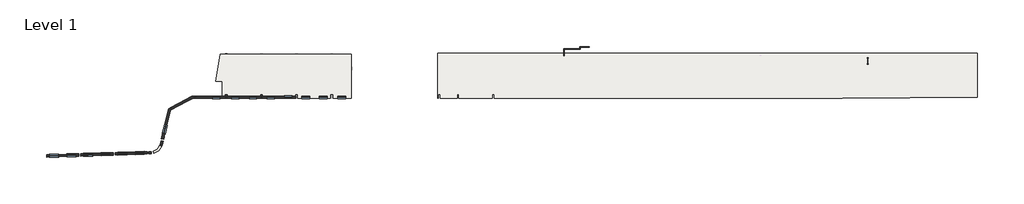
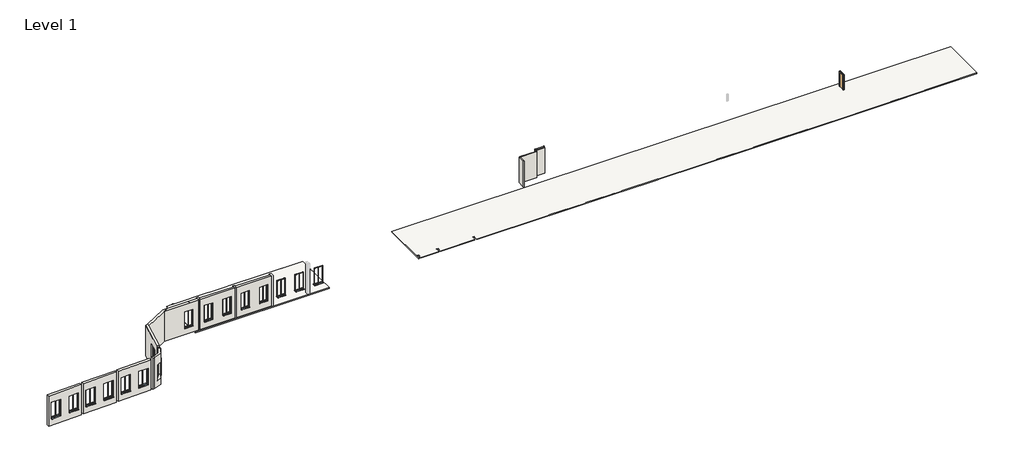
# One storey, part 1 of 3: 15 walls, 15 windows, 2 columns, 2 slabs, 1 beam, 1 door.
"""IFC4 building model written with IfcOpenShell, lengths in millimetres."""

from ifc_helpers import new_model, si_unit, frame, origin, place, context, project, spatial, polyline, circle_curve, outline, extrude, faceted_brep, transform, mapped, element, save
from ifc_brep_helpers import plane_surface, cylinder_surface, revolved_surface, advanced_brep
from components import door_1f0cfce1, finestra_doppia_110_x_230_cm_898ac0b4, finestra_doppia_128_x_230_cm_ef977aeb

model = new_model("IFC4")

# Units and contexts
model_context = context("Model", 3, world=origin())
ifc_project = project(units=[si_unit("LENGTHUNIT", "METRE", prefix="MILLI")], contexts=[model_context])

# Site, building, storey
site = spatial("IfcSite", under=ifc_project)
building = spatial("IfcBuilding", under=site)
storey = spatial("IfcBuildingStorey", under=building, Name="Level 1", Elevation=-4370.0)

# Beam
placement = place(None, origin())
element("IfcBeam", 1, ObjectType="Calcestruzzo - Trave rettangolare : 300 x 400mm", at=placement, inside=storey, context=model_context, shape_type="Brep", body=[
    faceted_brep([(-15141.2802282, 30026.0893107, -4470.0), (-14841.2802282, 30026.0893107, -4470.0), (-14841.2802282, 30026.0893107, -4870.0), (-15141.2802282, 30026.0893107, -4870.0), (-15141.2802282, 30013.3893107, -4470.0), (-14841.2802282, 30013.3893107, -4470.0), (-14841.2802282, 30013.3893107, -4570.0), (-14841.2802282, 28163.3893107, -4570.0), (-14841.2802282, 27863.3893107, -4570.0), (-14841.2802282, 26013.3893107, -4570.0), (-14841.2802282, 26013.3893107, -4870.0), (-14841.2802282, 27863.3893107, -4870.0), (-14841.2802282, 28163.3893107, -4870.0), (-14866.2723874, 26013.3893107, -4870.0), (-15116.2723874, 26013.3893107, -4870.0), (-15141.2802282, 26013.3893107, -4870.0), (-15141.2802282, 26013.3893107, -4570.0), (-15141.2802282, 30013.3893107, -4570.0), (-14866.2723874, 26013.3893107, -4570.0), (-15116.2723874, 26013.3893107, -4570.0)], [[[0, 1, 2, 3]], [[1, 0, 4, 5]], [[2, 1, 5, 6, 7, 8, 9, 10, 11, 12]], [[3, 2, 12, 11, 10, 13, 14, 15]], [[0, 3, 15, 16, 17, 4]], [[15, 14, 13, 10, 9, 18, 19, 16]], [[6, 17, 16, 19, 18, 9, 8, 7]], [[17, 6, 5, 4]]]),
])

# Columns
element("IfcColumn", 2, ObjectType="Pilastro in calcestruzzo - Rettangolare : 250 x 500", at=placement, inside=storey, context=model_context, shape_type="SweptSolid", body=[
    extrude(outline(polyline([(-10026.2776146, 24413.3920265), (-10026.2776146, 23913.3920265), (-10276.2776146, 23913.3920265), (-10276.2776146, 24413.3920265), (-10026.2776146, 24413.3920265)])), frame((0.0, 0.0, -4470.0), z_axis=(0.0, 0.0, 1.0), x_axis=(1.0, 0.0, 0.0)), (0.0, 0.0, 1.0), 4332.4733482),
])
element("IfcColumn", 3, ObjectType="Pilastro in calcestruzzo - Rettangolare : 250 x 500", at=placement, inside=storey, context=model_context, shape_type="SweptSolid", body=[
    extrude(outline(polyline([(-14866.2802282, 24413.3920265), (-14866.2802282, 23913.3920265), (-15116.2802282, 23913.3920265), (-15116.2802282, 24413.3920265), (-14866.2802282, 24413.3920265)])), frame((0.0, 0.0, -4470.0), z_axis=(0.0, 0.0, 1.0), x_axis=(1.0, 0.0, 0.0)), (0.0, 0.0, 1.0), 4349.220762),
])

# Door
door_shape = door_1f0cfce1(model_context)
element("IfcDoor", 4, ObjectType="Single-Flush : 30\" x 80\"", at=placement, inside=storey, context=model_context, shape_type="MappedRepresentation", body=[
    mapped(door_shape, transform((73407.3573777, 29043.3920265, -4370.0), x_axis=(0.0, 1.0, 0.0), y_axis=(-1.0, 0.0, 0.0), z_axis=(0.0, 0.0, 1.0))),
])

# Slabs
element("IfcSlab", 5, ObjectType="Concrete Slab - 10cm", at=placement, inside=storey, context=model_context, shape_type="Brep", body=[
    faceted_brep([(2248.7276126, 30013.3893107, -4570.0), (2248.7276126, 28163.3893107, -4570.0), (2248.7276126, 27863.3893107, -4570.0), (2248.7276126, 26013.3893107, -4570.0), (2248.7276126, 25713.3893107, -4570.0), (2248.7276126, 23913.3893107, -4570.0), (-15571.2723874, 23913.3893107, -4570.0), (-15571.2723874, 26263.3893107, -4570.0), (-16425.2140386, 26263.3893107, -4570.0), (-15831.2723874, 30013.3893107, -4570.0), (-15141.2802282, 30013.3893107, -4570.0), (-14841.2802282, 30013.3893107, -4570.0), (-10301.2776146, 30013.3893107, -4570.0), (-10001.2776146, 30013.3893107, -4570.0), (-5461.275001, 30013.3893107, -4570.0), (-5161.275001, 30013.3893107, -4570.0), (-621.2723874, 30013.3893107, -4570.0), (-321.2723874, 30013.3893107, -4570.0), (2248.7276126, 30013.3893107, -4470.0), (-321.2723874, 30013.3893107, -4470.0), (-621.2723874, 30013.3893107, -4470.0), (-5161.275001, 30013.3893107, -4470.0), (-5461.275001, 30013.3893107, -4470.0), (-10001.2776146, 30013.3893107, -4470.0), (-10301.2776146, 30013.3893107, -4470.0), (-14841.2802282, 30013.3893107, -4470.0), (-15141.2802282, 30013.3893107, -4470.0), (-15831.2723874, 30013.3893107, -4470.0), (-16425.2140386, 26263.3893107, -4470.0), (-15571.2723874, 26263.3893107, -4470.0), (-15571.2723874, 23913.3893107, -4470.0), (2248.7276126, 23913.3893107, -4470.0), (2248.7276126, 25713.3893107, -4470.0), (2248.7276126, 26013.3893107, -4470.0), (2248.7276126, 27863.3893107, -4470.0), (2248.7276126, 28163.3893107, -4470.0)], [[[0, 1, 2, 3, 4, 5, 6, 7, 8, 9, 10, 11, 12, 13, 14, 15, 16, 17]], [[18, 19, 20, 21, 22, 23, 24, 25, 26, 27, 28, 29, 30, 31, 32, 33, 34, 35]], [[5, 4, 3, 2, 1, 0, 18, 35, 34, 33, 32, 31]], [[6, 5, 31, 30]], [[7, 6, 30, 29]], [[8, 7, 29, 28]], [[9, 8, 28, 27]], [[0, 17, 16, 15, 14, 13, 12, 11, 10, 9, 27, 26, 25, 24, 23, 22, 21, 20, 19, 18]]]),
])
element("IfcSlab", 6, ObjectType="Concrete Slab - 10cm", at=placement, inside=storey, context=model_context, shape_type="Brep", body=[
    faceted_brep([(88507.3573777, 30121.9947423, -4580.0), (88507.3573777, 24028.2517157, -4580.0), (69897.3835137, 23913.3920265, -4580.0), (49007.3573777, 23913.3920265, -4580.0), (48757.3573777, 23913.3920265, -4580.0), (46167.3573777, 23913.3920265, -4580.0), (45917.3573777, 23913.3920265, -4580.0), (41267.3573777, 23913.3920265, -4580.0), (41017.3573777, 23913.3920265, -4580.0), (36427.3573777, 23913.3920265, -4580.0), (36177.3573777, 23913.3920265, -4580.0), (31587.3573777, 23913.3920265, -4580.0), (31337.3573777, 23913.3920265, -4580.0), (26747.3573777, 23913.3920265, -4580.0), (26497.3573777, 23913.3920265, -4580.0), (21907.3573777, 23913.3920265, -4580.0), (21907.3573777, 24463.3920265, -4580.0), (21657.3573777, 24463.3920265, -4580.0), (21657.3573777, 23913.3920265, -4580.0), (17067.3573777, 23913.3920265, -4580.0), (17067.3573777, 24463.3920265, -4580.0), (16817.3573777, 24463.3920265, -4580.0), (16817.3573777, 23913.3920265, -4580.0), (14467.3573777, 23913.3920265, -4580.0), (14467.3573777, 24463.3920265, -4580.0), (14217.3573777, 24463.3920265, -4580.0), (14217.3573777, 23913.3920265, -4580.0), (14154.8573777, 23913.3920265, -4580.0), (14154.8573777, 30121.9947423, -4580.0), (53672.3573777, 30121.9947423, -4580.0), (53872.3573777, 30121.9947423, -4580.0), (58512.3573777, 30121.9947423, -4580.0), (58712.3573777, 30121.9947423, -4580.0), (63382.3573777, 30121.9947423, -4580.0), (63582.3573777, 30121.9947423, -4580.0), (68262.3573777, 30121.9947423, -4580.0), (68462.3573777, 30121.9947423, -4580.0), (73132.3573777, 30121.9947423, -4580.0), (73332.3573777, 30121.9947423, -4580.0), (77932.3573777, 30121.9947423, -4580.0), (78132.3573777, 30121.9947423, -4580.0), (80482.3573777, 30121.9947423, -4580.0), (80682.3573777, 30121.9947423, -4580.0), (85282.3573777, 30121.9947423, -4580.0), (85482.3573777, 30121.9947423, -4580.0), (88507.3573777, 30121.9947423, -4480.0), (14154.8573777, 30121.9947423, -4480.0), (14154.8573777, 23913.3920265, -4480.0), (14217.3573777, 23913.3920265, -4480.0), (14217.3573777, 24463.3920265, -4480.0), (14467.3573777, 24463.3920265, -4480.0), (14467.3573777, 23913.3920265, -4480.0), (16817.3573777, 23913.3920265, -4480.0), (16817.3573777, 24463.3920265, -4480.0), (17067.3573777, 24463.3920265, -4480.0), (17067.3573777, 23913.3920265, -4480.0), (21657.3573777, 23913.3920265, -4480.0), (21657.3573777, 24463.3920265, -4480.0), (21907.3573777, 24463.3920265, -4480.0), (21907.3573777, 23913.3920265, -4480.0), (26497.3573777, 23913.3920265, -4480.0), (26747.3573777, 23913.3920265, -4480.0), (31337.3573777, 23913.3920265, -4480.0), (31587.3573777, 23913.3920265, -4480.0), (36177.3573777, 23913.3920265, -4480.0), (36427.3573777, 23913.3920265, -4480.0), (41017.3573777, 23913.3920265, -4480.0), (41267.3573777, 23913.3920265, -4480.0), (45917.3573777, 23913.3920265, -4480.0), (46167.3573777, 23913.3920265, -4480.0), (48757.3573777, 23913.3920265, -4480.0), (49007.3573777, 23913.3920265, -4480.0), (53647.3573777, 23913.3920265, -4480.0), (53897.3573777, 23913.3920265, -4480.0), (58487.3573777, 23913.3920265, -4480.0), (58737.3573777, 23913.3920265, -4480.0), (63357.3573777, 23913.3920265, -4480.0), (63607.3573777, 23913.3920265, -4480.0), (68237.3573777, 23913.3920265, -4480.0), (68487.3573777, 23913.3920265, -4480.0), (69897.3835137, 23913.3920265, -4480.0), (88507.3573777, 24028.2517157, -4480.0)], [[[0, 1, 2, 3, 4, 5, 6, 7, 8, 9, 10, 11, 12, 13, 14, 15, 16, 17, 18, 19, 20, 21, 22, 23, 24, 25, 26, 27, 28, 29, 30, 31, 32, 33, 34, 35, 36, 37, 38, 39, 40, 41, 42, 43, 44]], [[45, 46, 47, 48, 49, 50, 51, 52, 53, 54, 55, 56, 57, 58, 59, 60, 61, 62, 63, 64, 65, 66, 67, 68, 69, 70, 71, 72, 73, 74, 75, 76, 77, 78, 79, 80, 81]], [[1, 0, 45, 81]], [[2, 1, 81, 80]], [[15, 14, 13, 12, 11, 10, 9, 8, 7, 6, 5, 4, 3, 2, 80, 79, 78, 77, 76, 75, 74, 73, 72, 71, 70, 69, 68, 67, 66, 65, 64, 63, 62, 61, 60, 59]], [[28, 27, 47, 46]], [[0, 44, 43, 42, 41, 40, 39, 38, 37, 36, 35, 34, 33, 32, 31, 30, 29, 28, 46, 45]], [[16, 15, 59, 58]], [[17, 16, 58, 57]], [[18, 17, 57, 56]], [[19, 18, 56, 55]], [[23, 22, 52, 51]], [[20, 19, 55, 54]], [[21, 20, 54, 53]], [[22, 21, 53, 52]], [[24, 23, 51, 50]], [[25, 24, 50, 49]], [[26, 25, 49, 48]], [[27, 26, 48, 47]]]),
])

# Walls
element("IfcWall", 7, ObjectType="Generic - 30", at=placement, inside=storey, context=model_context, shape_type="SweptSolid", body=[
    extrude(outline(polyline([(0.0, 0.0), (4437.0, 0.0), (4437.0, -4250.0), (0.0, -4250.0), (0.0, 0.0)]), holes=[polyline([(2779.0, -900.0), (2779.0, -3200.0), (4059.0, -3200.0), (4059.0, -900.0), (2779.0, -900.0)]), polyline([(1657.0, -900.0), (377.0, -900.0), (377.0, -3200.0), (1657.0, -3200.0), (1657.0, -900.0)])]), frame((-39751.415923, 15812.7410239, -4370.0), z_axis=(-0.031182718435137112, 0.9995137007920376, 0.0), x_axis=(0.9995137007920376, 0.031182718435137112, 0.0)), (0.0, 0.0, 1.0), 300.0),
])
element("IfcWall", 8, ObjectType="Generic - 30", at=placement, inside=storey, context=model_context, shape_type="SweptSolid", body=[
    extrude(outline(polyline([(0.0, 0.0), (4511.2851086, 0.0), (4511.2851086, -4250.0), (0.0, -4250.0), (0.0, 0.0)]), holes=[polyline([(4094.2851086, -900.0), (2814.2851086, -900.0), (2814.2851086, -3200.0), (4094.2851086, -3200.0), (4094.2851086, -900.0)]), polyline([(1671.0, -900.0), (391.0, -900.0), (391.0, -3200.0), (1671.0, -3200.0), (1671.0, -900.0)])]), frame((-35066.6952074, 15958.8944252, -4370.0), z_axis=(-0.03118271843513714, 0.9995137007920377, 0.0), x_axis=(0.9995137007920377, 0.03118271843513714, 0.0)), (0.0, 0.0, 1.0), 300.0),
])
element("IfcWall", 9, ObjectType="Generic - 30", at=placement, inside=storey, context=model_context, shape_type="SweptSolid", body=[
    extrude(outline(polyline([(0.0, 0.0), (4420.0, 0.0), (4420.0, -4250.0), (0.0, -4250.0), (0.0, 0.0)]), holes=[polyline([(2759.0, -900.0), (2759.0, -3200.0), (4039.0, -3200.0), (4039.0, -900.0), (2759.0, -900.0)]), polyline([(383.0, -900.0), (383.0, -3200.0), (1663.0, -3200.0), (1663.0, -900.0), (383.0, -900.0)])]), frame((-30307.725508, 16107.3642381, -4370.0), z_axis=(-0.031182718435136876, 0.9995137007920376, 0.0), x_axis=(0.9995137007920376, 0.031182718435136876, 0.0)), (0.0, 0.0, 1.0), 300.0),
])
element("IfcWall", 10, ObjectType="Generic - 30", at=placement, inside=storey, context=model_context, shape_type="AdvancedBrep", body=[
    advanced_brep(
    [(-25339.5023554, 16261.5593755, 0.0), (-23799.8977987, 17527.2526931, 0.0), (-24091.7032945, 17596.8914223, 0.0), (-25345.7413085, 16561.5593755, 0.0), (-23799.8977987, 17527.2526931, -4370.0), (-25339.5023554, 16261.5593755, -4370.0), (-25345.7413085, 16561.5593755, -4370.0), (-24091.7032945, 17596.8914223, -4370.0), (-23799.8977987, 17527.2526931, -120.0), (-25001.520561, 16310.3147392, -1175.701572), (-23867.395936, 17311.2643936, -1175.701572), (-23867.395936, 17311.2643936, -3470.0), (-25001.520561, 16310.3147392, -3470.0), (-24091.7032945, 17596.8914223, -120.0), (-24146.9290432, 17420.1737227, -1175.701572), (-25074.8491909, 16601.2149146, -1175.701572), (-25074.8491909, 16601.2149146, -3470.0), (-24146.9290432, 17420.1737227, -3470.0)],
    [
        (0, 1, circle_curve(frame((-25404.8280257, 17910.2657037, 0.0), z_axis=(0.0, 0.0, 1.0), x_axis=(1.0, 0.0, 0.0)), 1650.0)),
        (1, 2),
        (2, 3, circle_curve(frame((-25404.8280257, 17910.2657037, 0.0), z_axis=(0.0, 0.0, -1.0), x_axis=(1.0, 0.0, 0.0)), 1350.0)),
        (3, 0),
        (4, 5, circle_curve(frame((-25404.8280257, 17910.2657037, -4370.0), z_axis=(0.0, 0.0, -1.0), x_axis=(1.0, 0.0, 0.0)), 1650.0)),
        (5, 6),
        (6, 7, circle_curve(frame((-25404.8280257, 17910.2657037, -4370.0), z_axis=(0.0, 0.0, 1.0), x_axis=(1.0, 0.0, 0.0)), 1350.0)),
        (7, 4),
        (0, 5),
        (4, 8),
        (8, 1),
        (9, 10, circle_curve(frame((-25404.8280257, 17910.2657037, -1175.701572), z_axis=(0.0, 0.0, 1.0), x_axis=(1.0, 0.0, 0.0)), 1650.0)),
        (10, 11),
        (11, 12, circle_curve(frame((-25404.8280257, 17910.2657037, -3470.0), z_axis=(0.0, 0.0, -1.0), x_axis=(1.0, 0.0, 0.0)), 1650.0)),
        (12, 9),
        (7, 13),
        (13, 2),
        (6, 3),
        (14, 15, circle_curve(frame((-25404.8280257, 17910.2657037, -1175.701572), z_axis=(0.0, 0.0, -1.0), x_axis=(1.0, 0.0, 0.0)), 1350.0)),
        (15, 16),
        (16, 17, circle_curve(frame((-25404.8280257, 17910.2657037, -3470.0), z_axis=(0.0, 0.0, 1.0), x_axis=(1.0, 0.0, 0.0)), 1350.0)),
        (17, 14),
        (14, 10),
        (9, 15),
        (16, 12),
        (11, 17),
    ],
    [
        plane_surface(frame((-23754.8280257, 17910.2657037, 0.0), z_axis=(0.0, 0.0, 1.0), x_axis=(0.0, 1.0, 0.0))),
        plane_surface(frame((-23754.8280257, 17910.2657037, -4370.0), z_axis=(0.0, 0.0, -1.0), x_axis=(0.0, -1.0, 0.0))),
        cylinder_surface(frame((-25404.8280257, 17910.2657037, -4370.0), z_axis=(0.0, 0.0, 1.0), x_axis=(1.0, 0.0, 0.0)), 1650.0),
        plane_surface(frame((-23799.8977987, 17527.2526931, 0.0), z_axis=(0.2321290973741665, 0.9726849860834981, 0.0), x_axis=(0.0, 0.0, -1.0))),
        revolved_surface(polyline([(-24054.8280257, 17910.2657037, -4370.0), (-24054.8280257, 17910.2657037, 0.0)]), (-25404.8280257, 17910.2657037, -4370.0), (0.0, 0.0, -1.0)),
        plane_surface(frame((-25345.7413085, 16561.5593755, -4370.0), z_axis=(-0.9997838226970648, -0.020792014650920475, 0.0), x_axis=(0.020792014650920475, -0.9997838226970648, 0.0))),
        plane_surface(frame((-23754.8280257, 17910.2657037, -1175.701572), z_axis=(0.0, 0.0, -1.0), x_axis=(0.0, 1.0, 0.0))),
        plane_surface(frame((-23754.8280257, 17910.2657037, -3470.0), z_axis=(0.0, 0.0, 1.0), x_axis=(0.0, -1.0, 0.0))),
        plane_surface(frame((-23867.395936, 17311.2643936, -1175.701572), z_axis=(-0.3630310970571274, -0.9317770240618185, 0.0), x_axis=(0.0, 0.0, -1.0))),
        plane_surface(frame((-25074.8491909, 16601.2149146, -1175.701572), z_axis=(0.9696672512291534, 0.24442876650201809, 0.0), x_axis=(0.0, 0.0, -1.0))),
    ],
    [
        (0, [[1, 2, 3, 4]]),
        (1, [[5, 6, 7, 8]]),
        (2, [[-1, 9, -5, 10, 11], [12, 13, 14, 15]]),
        (3, [[-2, -11, -10, -8, 16, 17]]),
        (4, [[-3, -17, -16, -7, 18], [19, 20, 21, 22]]),
        (5, [[-4, -18, -6, -9]]),
        (6, [[23, -12, 24, -19]]),
        (7, [[25, -14, 26, -21]]),
        (8, [[-23, -22, -26, -13]]),
        (9, [[-24, -15, -25, -20]]),
    ],
),
])
element("IfcWall", 11, ObjectType="Generic - 30", at=placement, inside=storey, context=model_context, shape_type="Brep", body=[
    faceted_brep([(-25345.7413085, 16561.5593755, -4370.0), (-25656.2342314, 16561.5593755, -4370.0), (-25656.2342314, 16561.5593755, 0.0), (-25345.7413085, 16561.5593755, 0.0), (-25339.5023554, 16261.5593755, -4370.0), (-25339.5023554, 16261.5593755, 0.0), (-25656.2342314, 16261.5593755, 0.0), (-25656.2342314, 16261.5593755, -120.0), (-25656.2342314, 16261.5593755, -170.0), (-25656.2342314, 16261.5593755, -290.0), (-25656.2342314, 16261.5593755, -4370.0), (-25651.5545479, 16261.5593755, -4370.0), (-25656.2342314, 16411.5593755, -4370.0)], [[[0, 1, 2, 3]], [[4, 5, 6, 7, 8, 9, 10, 11]], [[1, 0, 4, 11, 10, 12]], [[2, 1, 12, 10, 9, 8, 7, 6]], [[3, 2, 6, 5]], [[0, 3, 5, 4]]]),
])
element("IfcWall", 12, ObjectType="Generic - 30", at=placement, inside=storey, context=model_context, shape_type="SweptSolid", body=[
    extrude(outline(polyline([(-4370.0, -14866.2802282), (-4370.0, -10276.2776146), (-136.6615999, -10276.2776146), (-120.779238, -14866.2802282), (-4370.0, -14866.2802282)]), holes=[polyline([(-3470.0, -10764.0067491), (-3470.0, -11864.0067491), (-1170.0, -11864.0067491), (-1170.0, -10764.0067491), (-3470.0, -10764.0067491)]), polyline([(-3470.0, -13226.2802282), (-3470.0, -14326.2802282), (-1170.0, -14326.2802282), (-1170.0, -13226.2802282), (-3470.0, -13226.2802282)])]), frame((0.0, 23913.3893107, 0.0), z_axis=(0.0, 1.0, 0.0), x_axis=(0.0, 0.0, 1.0)), (0.0, 0.0, 1.0), 300.0),
])
element("IfcWall", 13, ObjectType="Generic - 30", at=placement, inside=storey, context=model_context, shape_type="SweptSolid", body=[
    extrude(outline(polyline([(-4370.0, -10026.2776146), (-4370.0, -5436.275001), (-153.4090138, -5436.275001), (-137.5266518, -10026.2776146), (-4370.0, -10026.2776146)]), holes=[polyline([(-3470.0, -7006.0041139), (-1170.0, -7006.0041139), (-1170.0, -5906.0041139), (-3470.0, -5906.0041139), (-3470.0, -7006.0041139)]), polyline([(-3470.0, -8341.277593), (-3470.0, -9441.277593), (-1170.0, -9441.277593), (-1170.0, -8341.277593), (-3470.0, -8341.277593)])]), frame((0.0, 23913.3893107, 0.0), z_axis=(0.0, 1.0, 0.0), x_axis=(0.0, 0.0, 1.0)), (0.0, 0.0, 1.0), 300.0),
])
element("IfcWall", 14, ObjectType="Generic - 30", at=placement, inside=storey, context=model_context, shape_type="Brep", body=[
    faceted_brep([(-23637.2962108, 18263.9412034, -4370.0), (-22682.0743313, 22266.5845219, -4370.0), (-22588.525138, 22658.5814615, -4370.0), (-22588.525138, 22658.5814615, -120.0), (-22682.0743313, 22266.5845219, -120.0), (-23637.2962108, 18263.9412034, -120.0), (-23166.0741432, 20238.4917252, -3470.0), (-23463.1993878, 18993.454943, -3470.0), (-23463.1993878, 18993.454943, -1170.0), (-23166.0741432, 20238.4917252, -1170.0), (-23929.1017066, 18333.5799326, -4370.0), (-23929.1017066, 18333.5799326, -120.0), (-22942.7958158, 22466.4738378, -120.0), (-22942.7958158, 22466.4738378, -4370.0), (-23457.879639, 20308.1304544, -3470.0), (-23457.879639, 20308.1304544, -1170.0), (-23755.0048836, 19063.0936722, -1170.0), (-23755.0048836, 19063.0936722, -3470.0)], [[[0, 1, 2, 3, 4, 5], [6, 7, 8, 9]], [[10, 11, 12, 13], [14, 15, 16, 17]], [[2, 1, 0, 10, 13]], [[0, 5, 11, 10]], [[3, 2, 13, 12]], [[15, 14, 6, 9]], [[16, 15, 9, 8]], [[17, 16, 8, 7]], [[14, 17, 7, 6]], [[5, 4, 3, 12, 11]]]),
])
element("IfcWall", 15, ObjectType="Generic - 30", at=placement, inside=storey, context=model_context, shape_type="Brep", body=[
    faceted_brep([(-22682.0743313, 22266.5845219, -4370.0), (-19645.158682, 23913.3893107, -4370.0), (-19091.92086, 24213.3893107, -4370.0), (-19091.92086, 24213.3893107, -120.0), (-19645.158682, 23913.3893107, -120.0), (-20106.1902004, 23663.3893107, -120.0), (-22682.0743313, 22266.5845219, -120.0), (-22588.525138, 22658.5814615, -4370.0), (-22588.525138, 22658.5814615, -120.0), (-19721.2634438, 24213.3893107, -120.0), (-19721.2634438, 24213.3893107, -4370.0)], [[[0, 1, 2, 3, 4, 5, 6]], [[7, 8, 9, 10]], [[2, 1, 0, 7, 10]], [[0, 6, 8, 7]], [[3, 2, 10, 9]], [[6, 5, 4, 3, 9, 8]]]),
])
element("IfcWall", 16, ObjectType="Generic - 30", at=placement, inside=storey, context=model_context, shape_type="Brep", body=[
    faceted_brep([(-19645.158682, 23913.3893107, -4370.0), (-15116.2802282, 23913.3893107, -4370.0), (-15116.2802282, 23913.3893107, -119.9141861), (-16304.9559475, 23913.3893107, -115.8011213), (-16304.9559475, 23913.3893107, -120.0), (-19645.158682, 23913.3893107, -120.0), (-15853.2802282, 23913.3893107, -3470.0), (-16953.2802282, 23913.3893107, -3470.0), (-16953.2802282, 23913.3893107, -1170.0), (-15853.2802282, 23913.3893107, -1170.0), (-19091.92086, 24213.3893107, -4370.0), (-19091.92086, 24213.3893107, -120.0), (-16304.9559475, 24213.3893107, -120.0), (-16304.9559475, 24213.3893107, -115.8011213), (-15116.2802282, 24213.3893107, -119.9141861), (-15116.2802282, 24213.3893107, -4370.0), (-15853.2802282, 24213.3893107, -3470.0), (-15853.2802282, 24213.3893107, -1170.0), (-16953.2802282, 24213.3893107, -1170.0), (-16953.2802282, 24213.3893107, -3470.0)], [[[0, 1, 2, 3, 4, 5], [6, 7, 8, 9]], [[10, 11, 12, 13, 14, 15], [16, 17, 18, 19]], [[1, 0, 10, 15]], [[2, 1, 15, 14]], [[0, 5, 11, 10]], [[17, 16, 6, 9]], [[18, 17, 9, 8]], [[19, 18, 8, 7]], [[16, 19, 7, 6]], [[3, 2, 14, 13]], [[3, 13, 12, 4]], [[5, 4, 12, 11]]]),
])
element("IfcWall", 17, ObjectType="Generic - 30", at=placement, inside=storey, context=model_context, shape_type="SweptSolid", body=[
    extrude(outline(polyline([(0.0, -4250.0), (0.0, 0.0), (12.8467157, 0.0), (300.0, 0.0), (300.0, -4250.0), (0.0, -4250.0)])), frame((-23799.8977987, 17527.2526931, -120.0), z_axis=(0.23212909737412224, 0.9726849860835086, 0.0), x_axis=(-0.9726849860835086, 0.23212909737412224, 0.0)), (0.0, 0.0, 1.0), 488.0),
])
element("IfcWall", 18, ObjectType="muro 8cm", at=placement, inside=storey, context=model_context, shape_type="Brep", body=[
    faceted_brep([(31567.3573777, 29763.3947423, -4090.0), (31567.3573777, 30683.3920265, -4090.0), (31567.3573777, 30763.3920265, -4090.0), (31567.3573777, 30763.3920265, -456.113878), (31567.3573777, 30683.3920265, -456.113878), (31567.3573777, 29763.3947423, -456.113878), (31487.3573777, 29763.3947423, -4090.0), (31487.3573777, 29763.3947423, -455.5323731), (31487.3573777, 30763.3920265, -455.5323731), (31487.3573777, 30763.3920265, -4090.0)], [[[0, 1, 2, 3, 4, 5]], [[6, 7, 8, 9]], [[2, 1, 0, 6, 9]], [[0, 5, 7, 6]], [[3, 2, 9, 8]], [[5, 4, 3, 8, 7]]]),
])
element("IfcWall", 19, ObjectType="muro 8cm", at=placement, inside=storey, context=model_context, shape_type="Brep", body=[
    faceted_brep([(31567.3573777, 30683.3920265, -4090.0), (33807.3573777, 30683.3920265, -4090.0), (33807.3573777, 30683.3920265, -472.3960156), (31567.3573777, 30683.3920265, -456.113878), (31567.3573777, 30763.3920265, -4090.0), (31567.3573777, 30763.3920265, -456.113878), (33727.3573777, 30763.3920265, -471.8145107), (33807.3573777, 30763.3920265, -472.3960156), (33807.3573777, 30763.3920265, -4090.0), (33727.3573777, 30763.3920265, -4090.0)], [[[0, 1, 2, 3]], [[4, 5, 6, 7, 8, 9]], [[1, 0, 4, 9, 8]], [[0, 3, 5, 4]], [[2, 1, 8, 7]], [[3, 2, 7, 6, 5]]]),
])
element("IfcWall", 20, ObjectType="muro 8cm", at=placement, inside=storey, context=model_context, shape_type="Brep", body=[
    faceted_brep([(33807.3573777, 30763.3920265, -4090.0), (33807.3573777, 30963.3920265, -4090.0), (33807.3573777, 31043.3920265, -4090.0), (33807.3573777, 31043.3920265, -330.0), (33807.3573777, 31021.9947423, -330.0), (33807.3573777, 31021.9947423, -472.3960156), (33807.3573777, 30963.3920265, -472.3960156), (33807.3573777, 30763.3920265, -472.3960156), (33727.3573777, 30763.3920265, -4090.0), (33727.3573777, 30763.3920265, -471.8145107), (33727.3573777, 31021.9947423, -471.8145107), (33727.3573777, 31021.9947423, -330.0), (33727.3573777, 31043.3920265, -330.0), (33727.3573777, 31043.3920265, -4090.0)], [[[0, 1, 2, 3, 4, 5, 6, 7]], [[8, 9, 10, 11, 12, 13]], [[2, 1, 0, 8, 13]], [[0, 7, 9, 8]], [[3, 2, 13, 12]], [[4, 3, 12, 11]], [[4, 11, 10, 5]], [[7, 6, 5, 10, 9]]]),
])
element("IfcWall", 21, ObjectType="muro 8cm", at=placement, inside=storey, context=model_context, shape_type="Brep", body=[
    faceted_brep([(33807.3573777, 30963.3920265, -4090.0), (35007.3573777, 30963.3920265, -4090.0), (35007.3573777, 30963.3920265, -481.1185893), (33807.3573777, 30963.3920265, -472.3960156), (33807.3573777, 31043.3920265, -4090.0), (33807.3573777, 31043.3920265, -330.0), (35007.3573777, 31043.3920265, -330.0), (35007.3573777, 31043.3920265, -4090.0), (33807.3573777, 31021.9947423, -472.3960156), (33807.3573777, 31021.9947423, -330.0), (35007.3573777, 31021.9947423, -330.0), (35007.3573777, 31021.9947423, -481.1185893)], [[[0, 1, 2, 3]], [[4, 5, 6, 7]], [[1, 0, 4, 7]], [[0, 3, 8, 9, 5, 4]], [[2, 1, 7, 6, 10, 11]], [[10, 6, 5, 9]], [[10, 9, 8, 11]], [[3, 2, 11, 8]]]),
])

# Windows
finestra_doppia_110_x_230_cm_shape = finestra_doppia_110_x_230_cm_898ac0b4(model_context)
element("IfcWindow", 22, ObjectType="Finestra Doppia : 110 x 230 cm", at=placement, inside=storey, context=model_context, shape_type="MappedRepresentation", body=[
    mapped(finestra_doppia_110_x_230_cm_shape, transform((-4073.2749632, 24070.2520496, -4370.0), x_axis=(-1.0, 0.0, 0.0), y_axis=(0.0, -1.0, 0.0), z_axis=(0.0, 0.0, 1.0))),
])
element("IfcWindow", 23, ObjectType="Finestra Doppia : 110 x 230 cm", at=placement, inside=storey, context=model_context, shape_type="MappedRepresentation", body=[
    mapped(finestra_doppia_110_x_230_cm_shape, transform((-1639.2749632, 24070.2520496, -4370.0), x_axis=(-1.0, 0.0, 0.0), y_axis=(0.0, -1.0, 0.0), z_axis=(0.0, 0.0, 1.0))),
])
element("IfcWindow", 24, ObjectType="Finestra Doppia : 110 x 230 cm", at=placement, inside=storey, context=model_context, shape_type="MappedRepresentation", body=[
    mapped(finestra_doppia_110_x_230_cm_shape, transform((-6456.0041139, 24056.5265719, -4370.0), x_axis=(1.0, 0.0, 0.0), y_axis=(0.0, 1.0, 0.0), z_axis=(0.0, 0.0, 1.0))),
])
element("IfcWindow", 25, ObjectType="Finestra Doppia : 110 x 230 cm", at=placement, inside=storey, context=model_context, shape_type="MappedRepresentation", body=[
    mapped(finestra_doppia_110_x_230_cm_shape, transform((-8891.277593, 24070.2520496, -4370.0), x_axis=(-1.0, 0.0, 0.0), y_axis=(0.0, -1.0, 0.0), z_axis=(0.0, 0.0, 1.0))),
])
element("IfcWindow", 26, ObjectType="Finestra Doppia : 110 x 230 cm", at=placement, inside=storey, context=model_context, shape_type="MappedRepresentation", body=[
    mapped(finestra_doppia_110_x_230_cm_shape, transform((-11314.0067491, 24070.2520496, -4370.0), x_axis=(-1.0, 0.0, 0.0), y_axis=(0.0, -1.0, 0.0), z_axis=(0.0, 0.0, 1.0))),
])
element("IfcWindow", 27, ObjectType="Finestra Doppia : 110 x 230 cm", at=placement, inside=storey, context=model_context, shape_type="MappedRepresentation", body=[
    mapped(finestra_doppia_110_x_230_cm_shape, transform((-13776.2802282, 24070.2520496, -4370.0), x_axis=(-1.0, 0.0, 0.0), y_axis=(0.0, -1.0, 0.0), z_axis=(0.0, 0.0, 1.0))),
])
element("IfcWindow", 28, ObjectType="Finestra Doppia : 110 x 230 cm", at=placement, inside=storey, context=model_context, shape_type="MappedRepresentation", body=[
    mapped(finestra_doppia_110_x_230_cm_shape, transform((897.7276126, 24070.2520496, -4370.0), x_axis=(-1.0, 0.0, 0.0), y_axis=(0.0, -1.0, 0.0), z_axis=(0.0, 0.0, 1.0))),
])
element("IfcWindow", 29, ObjectType="Finestra Doppia : 110 x 230 cm", at=placement, inside=storey, context=model_context, shape_type="MappedRepresentation", body=[
    mapped(finestra_doppia_110_x_230_cm_shape, transform((-16403.2802282, 24070.2520496, -4370.0), x_axis=(-1.0, 0.0, 0.0), y_axis=(0.0, -1.0, 0.0), z_axis=(0.0, 0.0, 1.0))),
])
finestra_doppia_128_x_230_cm_shape = finestra_doppia_128_x_230_cm_ef977aeb(model_context)
element("IfcWindow", 30, ObjectType="Finestra Doppia : 128 x 230 cm", at=placement, inside=storey, context=model_context, shape_type="MappedRepresentation", body=[
    mapped(finestra_doppia_128_x_230_cm_shape, transform((-26914.8418479, 16356.4219517, -4370.0), x_axis=(0.9995137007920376, 0.031182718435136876, 0.0), y_axis=(-0.031182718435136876, 0.9995137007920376, 0.0), z_axis=(0.0, 0.0, 1.0))),
])
element("IfcWindow", 31, ObjectType="Finestra Doppia : 128 x 230 cm", at=placement, inside=storey, context=model_context, shape_type="MappedRepresentation", body=[
    mapped(finestra_doppia_128_x_230_cm_shape, transform((-29289.686401, 16282.3318127, -4370.0), x_axis=(0.9995137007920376, 0.031182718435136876, 0.0), y_axis=(-0.031182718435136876, 0.9995137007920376, 0.0), z_axis=(0.0, 0.0, 1.0))),
])
element("IfcWindow", 32, ObjectType="Finestra Doppia : 128 x 230 cm", at=placement, inside=storey, context=model_context, shape_type="MappedRepresentation", body=[
    mapped(finestra_doppia_128_x_230_cm_shape, transform((-31618.9813216, 16223.3948817, -4370.0), x_axis=(-0.9995137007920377, -0.03118271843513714, 0.0), y_axis=(0.03118271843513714, -0.9995137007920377, 0.0), z_axis=(0.0, 0.0, 1.0))),
])
element("IfcWindow", 33, ObjectType="Finestra Doppia : 128 x 230 cm", at=placement, inside=storey, context=model_context, shape_type="MappedRepresentation", body=[
    mapped(finestra_doppia_128_x_230_cm_shape, transform((-34041.0879885, 16147.8302645, -4370.0), x_axis=(-0.9995137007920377, -0.03118271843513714, 0.0), y_axis=(0.03118271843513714, -0.9995137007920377, 0.0), z_axis=(0.0, 0.0, 1.0))),
])
element("IfcWindow", 34, ObjectType="Finestra Doppia : 128 x 230 cm", at=placement, inside=storey, context=model_context, shape_type="MappedRepresentation", body=[
    mapped(finestra_doppia_128_x_230_cm_shape, transform((-36338.5419889, 16062.4223918, -4370.0), x_axis=(0.9995137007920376, 0.031182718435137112, 0.0), y_axis=(-0.031182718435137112, 0.9995137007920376, 0.0), z_axis=(0.0, 0.0, 1.0))),
])
element("IfcWindow", 35, ObjectType="Finestra Doppia : 128 x 230 cm", at=placement, inside=storey, context=model_context, shape_type="MappedRepresentation", body=[
    mapped(finestra_doppia_128_x_230_cm_shape, transform((-38739.8018959, 16001.2403052, -4370.0), x_axis=(-0.9995137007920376, -0.031182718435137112, 0.0), y_axis=(0.031182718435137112, -0.9995137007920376, 0.0), z_axis=(0.0, 0.0, 1.0))),
])
element("IfcWindow", 36, ObjectType="Finestra Doppia : 128 x 230 cm", at=placement, inside=storey, context=model_context, shape_type="MappedRepresentation", body=[
    mapped(finestra_doppia_128_x_230_cm_shape, transform((-23467.2147964, 19652.3857401, -4370.0), x_axis=(-0.2321290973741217, -0.9726849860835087, 0.0), y_axis=(0.9726849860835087, -0.2321290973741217, 0.0), z_axis=(0.0, 0.0, 1.0))),
])

save(model, "model.ifc")
